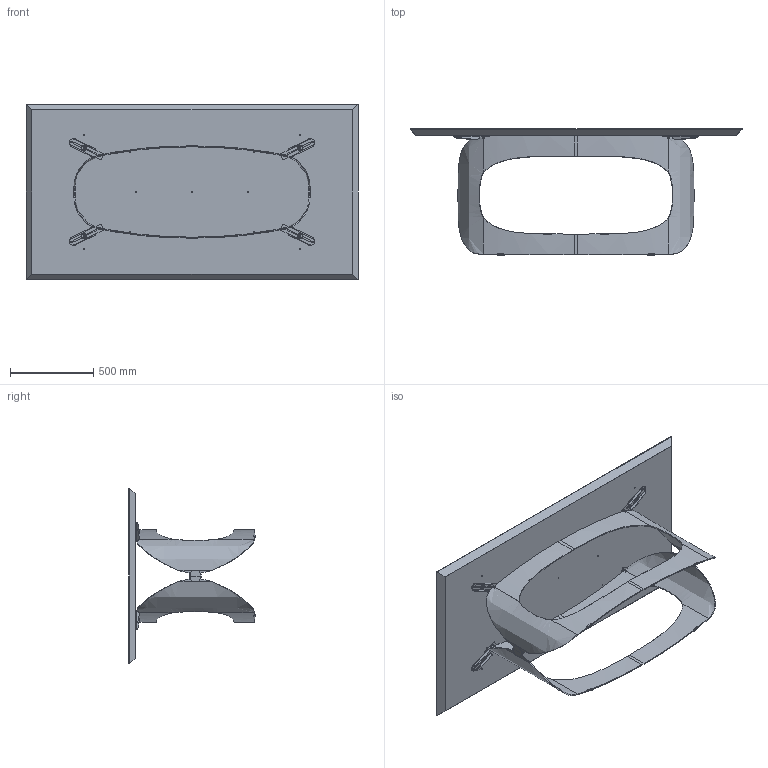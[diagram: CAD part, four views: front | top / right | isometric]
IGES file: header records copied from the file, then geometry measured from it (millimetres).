
Start section: SolidWorks IGES file using analytic representation for surfaces
Global section: file name: Y:\eforma\TECNICO\SOLIDWORKS\E-FORMA\1-TAVOLI\POLIFEMO\02 parts\PO21W.IGS; native system: SolidWorks 2022; preprocessor: SolidWorks 2022; author: eforma.tech; date: 240806.160747; units: millimetre
Bounding box: 2000 x 759.97 x 1060 mm (x, y, z)
Volume: 84282556 mm3; surface area: 7005574.4 mm2
Topology: 41 solids, 41 shells, 1358 faces, 3610 edges, 2225 vertices
Faces by surface type: revolution 818, plane 412, bspline 128
